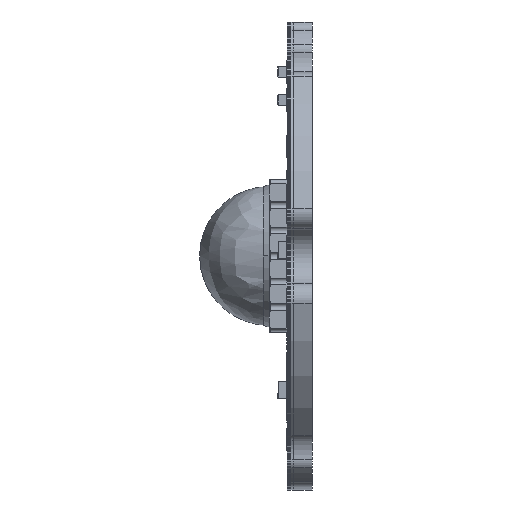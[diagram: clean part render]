
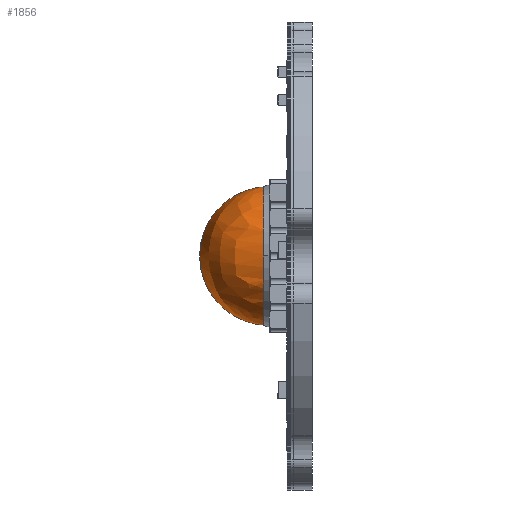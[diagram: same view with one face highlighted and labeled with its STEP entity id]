
A CAD part, left-side view. The second image highlights one B-rep face of the part: STEP entity #1856.
In plain terms, the highlighted free-form (B-spline) face has degree [3, 3] with [4, 4] control points.
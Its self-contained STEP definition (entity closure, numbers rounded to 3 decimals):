
#1856 = ADVANCED_FACE ( 'NONE', ( #57422 ), #83319, .T. ) ;
#7385 = VERTEX_POINT ( 'NONE', #70520 ) ;
#20656 = EDGE_LOOP ( 'NONE', ( #99013, #99014 ) ) ;
#57422 = FACE_OUTER_BOUND ( 'NONE', #20656, .T. ) ;
#57505 = CARTESIAN_POINT ( 'NONE',  ( 0., 1.441, 4.1 ) ) ;
#57507 = CARTESIAN_POINT ( 'NONE',  ( 0., 1.441, 4.1 ) ) ;
#57509 = CARTESIAN_POINT ( 'NONE',  ( 0., 1.441, 4.1 ) ) ;
#57510 = CARTESIAN_POINT ( 'NONE',  ( 0., 1.441, 4.1 ) ) ;
#57512 = CARTESIAN_POINT ( 'NONE',  ( 0., 9.641, 4.1 ) ) ;
#57514 = CARTESIAN_POINT ( 'NONE',  ( -4.803, 9.641, 4.1 ) ) ;
#57516 = CARTESIAN_POINT ( 'NONE',  ( -8.2, 6.244, 4.1 ) ) ;
#57518 = CARTESIAN_POINT ( 'NONE',  ( -8.2, 1.441, 4.1 ) ) ;
#57519 = CARTESIAN_POINT ( 'NONE',  ( 0., 9.641, -4.1 ) ) ;
#57521 = CARTESIAN_POINT ( 'NONE',  ( -4.803, 9.641, -4.1 ) ) ;
#57523 = CARTESIAN_POINT ( 'NONE',  ( -8.2, 6.244, -4.1 ) ) ;
#57525 = CARTESIAN_POINT ( 'NONE',  ( -8.2, 1.441, -4.1 ) ) ;
#57527 = CARTESIAN_POINT ( 'NONE',  ( 0., 1.441, -4.1 ) ) ;
#57529 = CARTESIAN_POINT ( 'NONE',  ( 0., 1.441, -4.1 ) ) ;
#57531 = CARTESIAN_POINT ( 'NONE',  ( 0., 1.441, -4.1 ) ) ;
#57533 = CARTESIAN_POINT ( 'NONE',  ( 0., 1.441, -4.1 ) ) ;
#66830 = CARTESIAN_POINT ( 'NONE',  ( 0., 1.441, 4.1 ) ) ;
#70520 = CARTESIAN_POINT ( 'NONE',  ( 0., 1.441, -4.1 ) ) ;
#83319 =( BOUNDED_SURFACE ( )  B_SPLINE_SURFACE ( 3, 3, ( 
 ( #57505, #57507, #57509, #57510 ),
 ( #57512, #57514, #57516, #57518 ),
 ( #57519, #57521, #57523, #57525 ),
 ( #57527, #57529, #57531, #57533 ) ),
 .UNSPECIFIED., .F., .F., .F. ) 
 B_SPLINE_SURFACE_WITH_KNOTS ( ( 4, 4 ),
 ( 4, 4 ),
 ( 0., 1. ),
 ( 0., 1. ),
 .UNSPECIFIED. ) 
 GEOMETRIC_REPRESENTATION_ITEM ( )  RATIONAL_B_SPLINE_SURFACE ( (
 ( 1., 0.805, 0.805, 1.),
 ( 0.333, 0.268, 0.268, 0.333),
 ( 0.333, 0.268, 0.268, 0.333),
 ( 1., 0.805, 0.805, 1.) ) ) 
 REPRESENTATION_ITEM ( '' )  SURFACE ( )  );
#86453 = CARTESIAN_POINT ( 'NONE',  ( 0., 1.441, 0. ) ) ;
#86454 = DIRECTION ( 'NONE',  ( -1., 0., 0. ) ) ;
#86455 = DIRECTION ( 'NONE',  ( 0., 0., 1. ) ) ;
#86457 = CARTESIAN_POINT ( 'NONE',  ( 0., 1.441, 0. ) ) ;
#86458 = DIRECTION ( 'NONE',  ( 0., 1., 0. ) ) ;
#86459 = DIRECTION ( 'NONE',  ( 0., 0., 1. ) ) ;
#86849 = CIRCLE ( 'NONE', #86860, 4.1 ) ;
#86857 = CIRCLE ( 'NONE', #86858, 4.1 ) ;
#86858 = AXIS2_PLACEMENT_3D ( 'NONE', #86453, #86454, #86455 ) ;
#86860 = AXIS2_PLACEMENT_3D ( 'NONE', #86457, #86458, #86459 ) ;
#99013 = ORIENTED_EDGE ( 'NONE', *, *, #138700, .T. ) ;
#99014 = ORIENTED_EDGE ( 'NONE', *, *, #138698, .T. ) ;
#124512 = VERTEX_POINT ( 'NONE', #66830 ) ;
#138698 = EDGE_CURVE ( 'NONE', #124512, #7385, #86857, .T. ) ;
#138700 = EDGE_CURVE ( 'NONE', #7385, #124512, #86849, .T. ) ;
